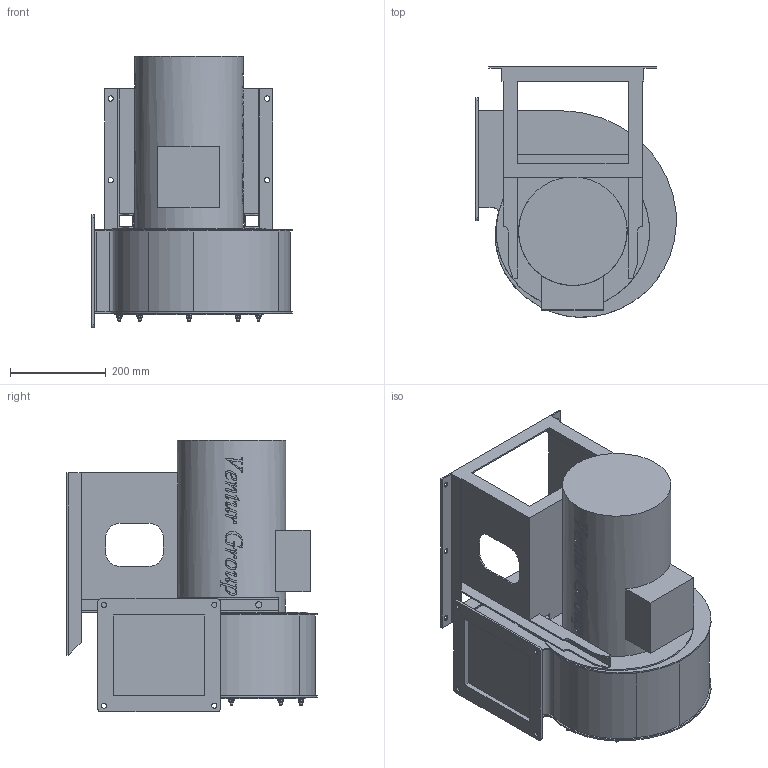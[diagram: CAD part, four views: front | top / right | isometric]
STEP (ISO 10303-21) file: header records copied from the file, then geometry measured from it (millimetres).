
FILE_DESCRIPTION(/* description */ (''),/* implementation_level */ '2;1');
FILE_NAME(/* name */ 'E:\Mariusz\Modele uproszczone\GFB\GFB_2_250_114 LG270 435030210\GFB_2_250_114 LG270 435030210\GFB_2_250_114 LG270 435030210.stp',/* time_stamp */ '2019-01-16T10:23:49+01:00',/* author */ ('M.Janczarek'),/* organization */ (''),/* preprocessor_version */ 'ST-DEVELOPER v16.13',/* originating_system */ 'Autodesk Inventor 2018',/* authorisation */ '');
FILE_SCHEMA (('AUTOMOTIVE_DESIGN { 1 0 10303 214 3 1 1 }'));
Products named in the file (1): GFB_X_250_114 LG270 435030210
Bounding box: 416.98 x 521.6 x 565.5 mm (x, y, z)
Volume: 39204751 mm3; surface area: 1602879.9 mm2
Topology: 1 solids, 1 shells, 2565 faces, 7542 edges, 4989 vertices
Faces by surface type: plane 2036, bspline 391, cylinder 112, cone 25, torus 1
Full cylindrical faces by diameter (mm): 6 x8, 8.9 x8, 11 x10, 12 x8, 13 x2, 203 x1, 226 x1, 310 x1
Entity records: 94145 total; most frequent: CARTESIAN_POINT 24755, ORIENTED_EDGE 14924, DIRECTION 11422, EDGE_CURVE 7462, LINE 6304, VECTOR 6304, VERTEX_POINT 4974, EDGE_LOOP 3552
